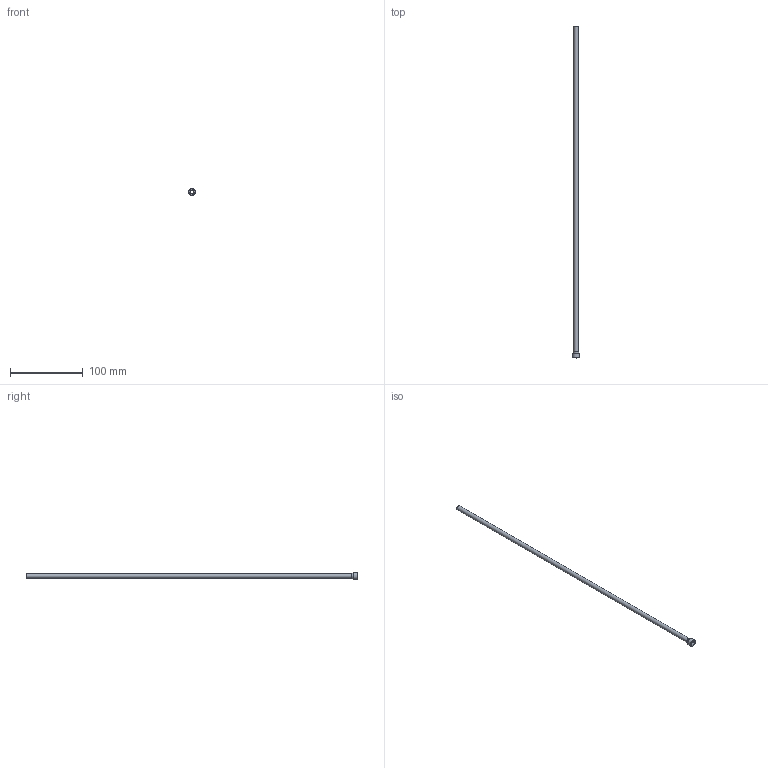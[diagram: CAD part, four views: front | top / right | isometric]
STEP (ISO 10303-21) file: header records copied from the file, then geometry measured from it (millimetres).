
FILE_DESCRIPTION(/* description */ (''),/* implementation_level */ '2;1');
FILE_NAME(/* name */ 'C:/Users/drich/Desktop/PT18-250-18 v1.step',/* time_stamp */ '2019-12-27T15:45:24-06:00',/* author */ (''),/* organization */ (''),/* preprocessor_version */ 'ST-DEVELOPER v18',/* originating_system */ 'Autodesk Translation Framework v8.12.0.6',/* authorisation */ '');
FILE_SCHEMA (('AUTOMOTIVE_DESIGN { 1 0 10303 214 3 1 1 }'));
Length unit declared in the file: inch
Products named in the file (1): PT18-250-18
Bounding box: 9.62 x 457.2 x 9.62 mm (x, y, z)
Volume: 2485.8 mm3; surface area: 17678.1 mm2
Topology: 1 solids, 1 shells, 19 faces, 48 edges, 34 vertices
Faces by surface type: plane 11, cylinder 4, torus 2, cone 2
Full cylindrical faces by diameter (mm): 5.842 x1, 6.35 x1, 7.925 x1, 9.621 x1
Entity records: 633 total; most frequent: DIRECTION 112, CARTESIAN_POINT 102, ORIENTED_EDGE 96, EDGE_CURVE 48, AXIS2_PLACEMENT_3D 44, VERTEX_POINT 34, CIRCLE 24, EDGE_LOOP 24
